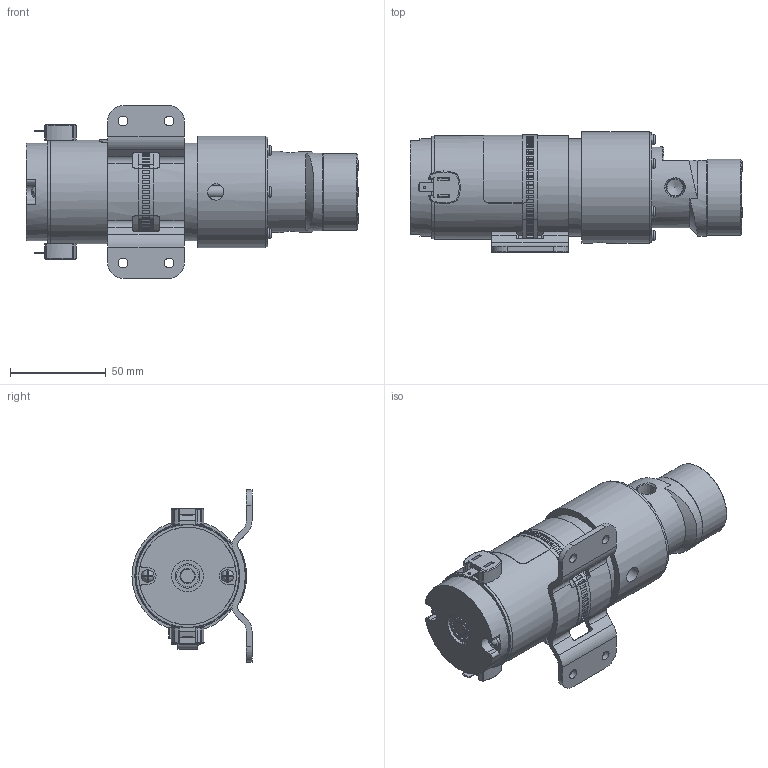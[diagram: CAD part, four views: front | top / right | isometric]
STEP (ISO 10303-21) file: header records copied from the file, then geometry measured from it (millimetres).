
FILE_DESCRIPTION (( 'STEP AP214' ), '1' );
FILE_NAME ('PD10-PM-0.STEP', '2017-03-03T21:33:35', ( '' ), ( '' ), 'SwSTEP 2.0', 'SolidWorks 2015', '' );
FILE_SCHEMA (( 'AUTOMOTIVE_DESIGN' ));
Length unit declared in the file: millimetre
Products named in the file (17): PD09-MA-0; PD07-SC-0_96710A258; PD07-MB-0; PD09-MO-0; Copy of MO0165^PD09-MO-0; PD10-PM-0; bAND^PD10-PM-0; Copy of MB0110^PD10-PM-0; PD06-PU-0; PD03-SC-1; PD03-EP-0; PD06-BO-0; PD06-BB-0; bb0018^PD06-BB-0; PD03-CU-0; PD03-FL-0; PD03-SC-0
Assembly tree (32 placements, depth 5):
  PD10-PM-0
    PD09-MA-0
      PD09-MO-0
        Copy of MO0165^PD09-MO-0
      PD07-MB-0
      PD07-SC-0_96710A258  x4
    PD06-PU-0
      PD03-SC-0  x6
      PD03-FL-0
      PD03-CU-0
      PD06-BO-0
        PD06-BB-0
          bb0018^PD06-BB-0
      PD03-EP-0
      PD03-SC-1  x3
    PD03-SC-0  x6
    Copy of MB0110^PD10-PM-0
    bAND^PD10-PM-0
Bounding box: 173.1 x 62.6 x 90 mm (x, y, z)
Volume: 210575.2 mm3; surface area: 109512.4 mm2
Topology: 43 solids, 43 shells, 1278 faces, 3280 edges, 2119 vertices
Faces by surface type: plane 715, cylinder 380, bspline 110, cone 43, torus 30
Full cylindrical faces by diameter (mm): 0.051 x2, 1.422 x4, 2.464 x4, 2.5 x6, 3.15 x2, 3.2 x9, 3.871 x1, 4 x4, 4.166 x2, 4.2 x3, 4.508 x2, 5 x4, 5.5 x15, 6 x3, 6.185 x2, 6.336 x1, 6.414 x2, 6.604 x2, 6.858 x4, 7.01 x2, 7.997 x2, 8.002 x3, 8.433 x2, 8.5 x1, 11.151 x1, 11.43 x4, 12.7 x4, 16.51 x2, 21.819 x1, 21.996 x2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
Entity records: 49038 total; most frequent: CARTESIAN_POINT 13012, ORIENTED_EDGE 6020, DIRECTION 5805, EDGE_CURVE 3010, AXIS2_PLACEMENT_3D 2049, VERTEX_POINT 2026, VECTOR 1707, LINE 1707
